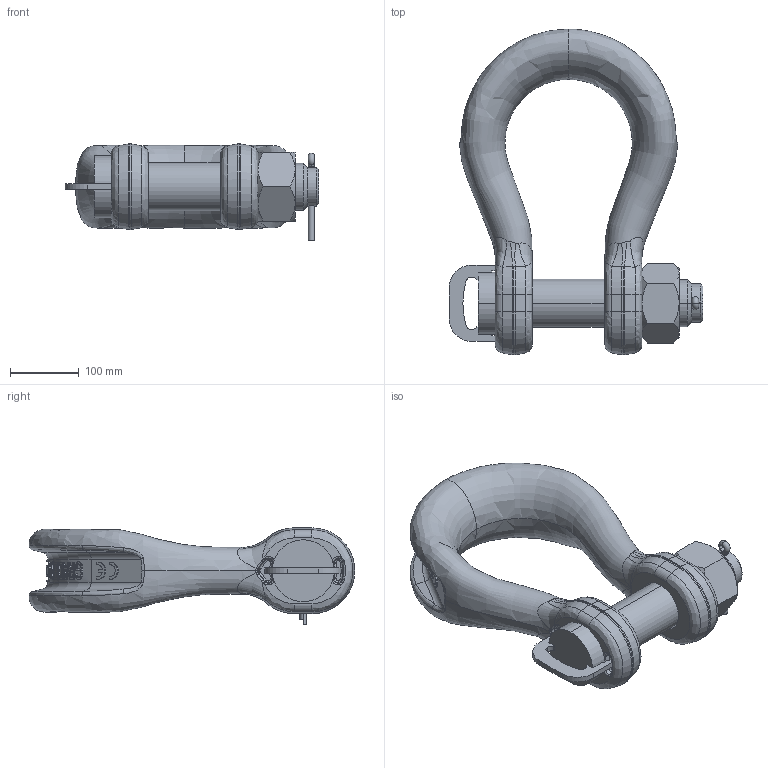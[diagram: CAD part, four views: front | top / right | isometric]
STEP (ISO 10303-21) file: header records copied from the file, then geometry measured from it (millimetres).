
FILE_DESCRIPTION(('STEP AP214'),'1');
FILE_NAME('slgpf0075.stp','2017-04-21T08:02:21',('TraceParts'),('TraceParts S.A.'),'Spatial InterOp 3D',' ',' ');
FILE_SCHEMA(('automotive_design'));
Length unit declared in the file: millimetre
Products named in the file (5): slgpf0075_1; slgpf0075_2; slgpf0075_3; slgpf0075_4; slgpf0075_5
Bounding box: 368.5 x 473 x 139.91 mm (x, y, z)
Volume: 6096862.6 mm3; surface area: 457538.8 mm2
Topology: 5 solids, 5 shells, 568 faces, 1441 edges, 907 vertices
Faces by surface type: bspline 236, plane 181, cylinder 83, cone 60, torus 8
Entity records: 76099 total; most frequent: CARTESIAN_POINT 59526, ORIENTED_EDGE 2882, DIRECTION 1858, EDGE_CURVE 1441, VERTEX_POINT 907, AXIS2_PLACEMENT_3D 728, B_SPLINE_CURVE_WITH_KNOTS 637, EDGE_LOOP 600
